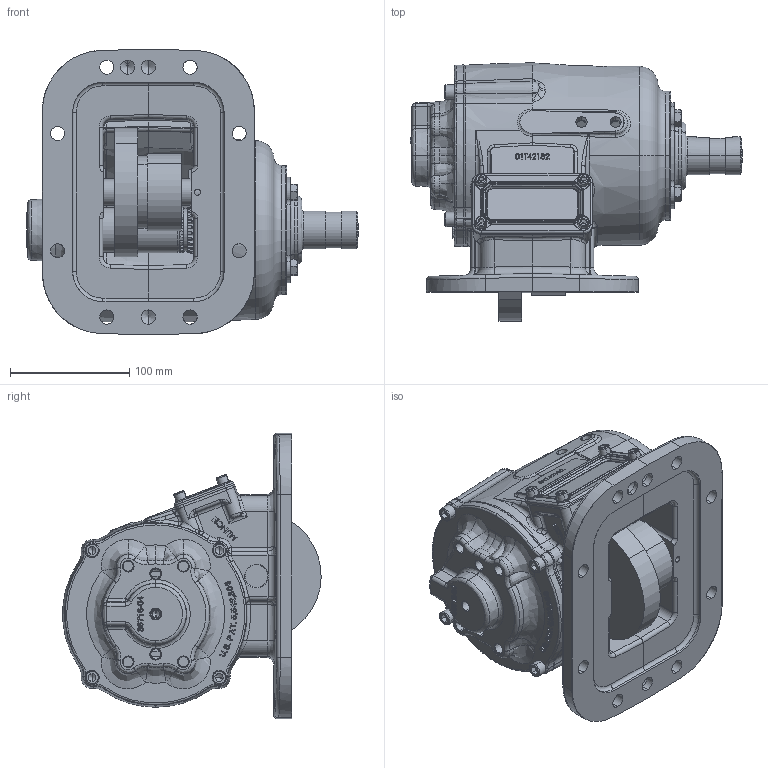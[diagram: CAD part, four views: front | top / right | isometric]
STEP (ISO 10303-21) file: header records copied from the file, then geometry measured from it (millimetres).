
FILE_DESCRIPTION (( 'STEP AP203' ), '1' );
FILE_NAME ('CS8S-XXXXX-X1BX.STEP', '2012-06-01T18:25:17', ( '' ), ( '' ), 'SwSTEP 2.0', 'SolidWorks 2012', '' );
FILE_SCHEMA (( 'CONFIG_CONTROL_DESIGN' ));
Length unit declared in the file: millimetre
Products named in the file (5): CS8S-XXXXX-X1BX; 06t36892; 19T33233; 15T34576; CS8S-XXXXX-X1XX
Assembly tree (7 placements, depth 2):
  CS8S-XXXXX-X1BX
    CS8S-XXXXX-X1XX
    15T34576
    19T33233  x4
    06t36892
Bounding box: 278.52 x 216.73 x 239.61 mm (x, y, z)
Volume: 1928824.3 mm3; surface area: 449676 mm2
Topology: 5 solids, 25 shells, 2378 faces, 6007 edges, 3729 vertices
Faces by surface type: bspline 786, plane 680, cylinder 543, cone 291, torus 72, sphere 6
Entity records: 137473 total; most frequent: CARTESIAN_POINT 88734, ORIENTED_EDGE 11300, DIRECTION 8019, EDGE_CURVE 5651, VERTEX_POINT 3567, AXIS2_PLACEMENT_3D 2954, EDGE_LOOP 2457, FACE_OUTER_BOUND 2249
